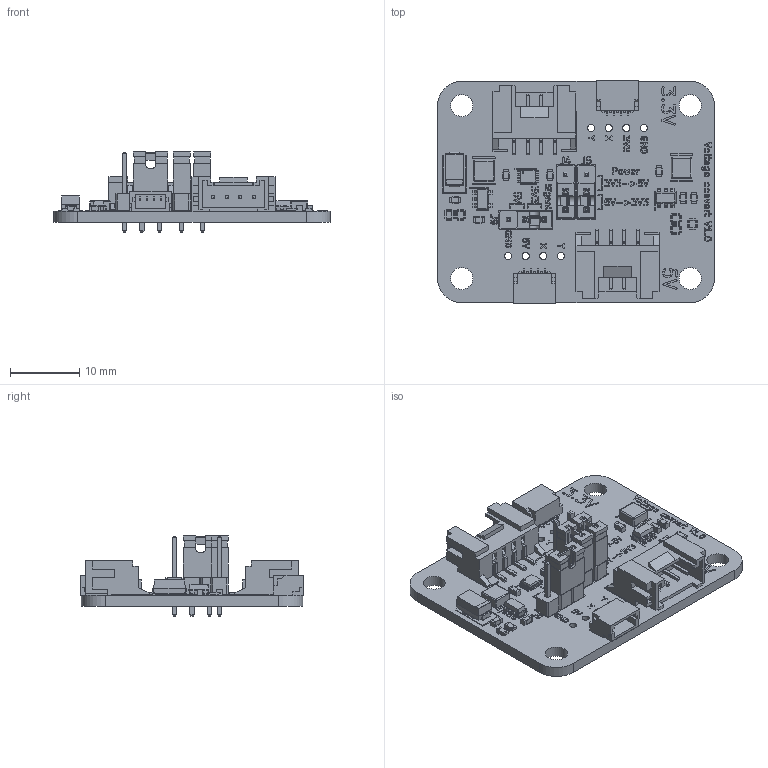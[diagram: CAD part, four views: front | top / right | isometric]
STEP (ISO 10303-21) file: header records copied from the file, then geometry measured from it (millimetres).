
FILE_DESCRIPTION(('FreeCAD Model'),'2;1');
FILE_NAME('Open CASCADE Shape Model','2022-09-25T11:15:02',(''),(''), 'Open CASCADE STEP processor 7.6','FreeCAD','Unknown');
FILE_SCHEMA(('AUTOMOTIVE_DESIGN { 1 0 10303 214 1 1 1 1 }'));
Length unit declared in the file: millimetre
Products named in the file (20): i2c-voltage-convert-mod; Board_Geoms_60d1; Pcb_60d1; botSilks_c032; topSilks_cde6; Step_Models_60d1; Top_60d1; C5_C_0603_1608Metric_b7ae69996578; R5_R_0603_1608Metric_5efdd5b509e1; J8_SM04B-SRSS_b97f72025119; U2_SOT_23_5_0c2078edc470; J6_Grove_Connector_(flat)_7fa0ee1a59f2; D1_D_SMA_075c9705bef0; L2_L_Wuerth_MAPI_3015_79ca5f2a996b; J9_PinHeader_1x03_P254mm_Vertical_4e3eb1876d88; J9_Assem1_4e3eb1876d88[2]; 60900213421; 60900213421_Housing; U3_SOT_23_6_dcb9af76e93f; U1_VSSOP_8_23x2mm_P05mm_bceba012ddb5
Assembly tree (36 placements, depth 5):
  i2c-voltage-convert-mod
    Board_Geoms_60d1
      Pcb_60d1
      botSilks_c032
      topSilks_cde6
    Step_Models_60d1
      Top_60d1
        C5_C_0603_1608Metric_b7ae69996578  x7
        R5_R_0603_1608Metric_5efdd5b509e1  x5
        J8_SM04B-SRSS_b97f72025119  x2
        U2_SOT_23_5_0c2078edc470
        J6_Grove_Connector_(flat)_7fa0ee1a59f2  x2
        D1_D_SMA_075c9705bef0
        L2_L_Wuerth_MAPI_3015_79ca5f2a996b  x2
        J9_PinHeader_1x03_P254mm_Vertical_4e3eb1876d88  x3
        J9_Assem1_4e3eb1876d88[2]  x3
          60900213421
          60900213421_Housing
        U3_SOT_23_6_dcb9af76e93f
        U1_VSSOP_8_23x2mm_P05mm_bceba012ddb5
Bounding box: 40 x 32.11 x 11.59 mm (x, y, z)
Volume: 2853.3 mm3; surface area: 5826.4 mm2
Topology: 32 solids, 208 shells, 2224 faces, 12930 edges, 11003 vertices
Faces by surface type: plane 1681, cylinder 428, bspline 101, sphere 8, extrusion 6
Full cylindrical faces by diameter (mm): 0.25 x1, 1.02 x8, 1.2 x9, 3.2 x4
Entity records: 102467 total; most frequent: CARTESIAN_POINT 21418, ORIENTED_EDGE 13007, DIRECTION 12866, EDGE_CURVE 10310, VECTOR 9776, LINE 9774, VERTEX_POINT 9323, AXIS2_PLACEMENT_3D 1545
